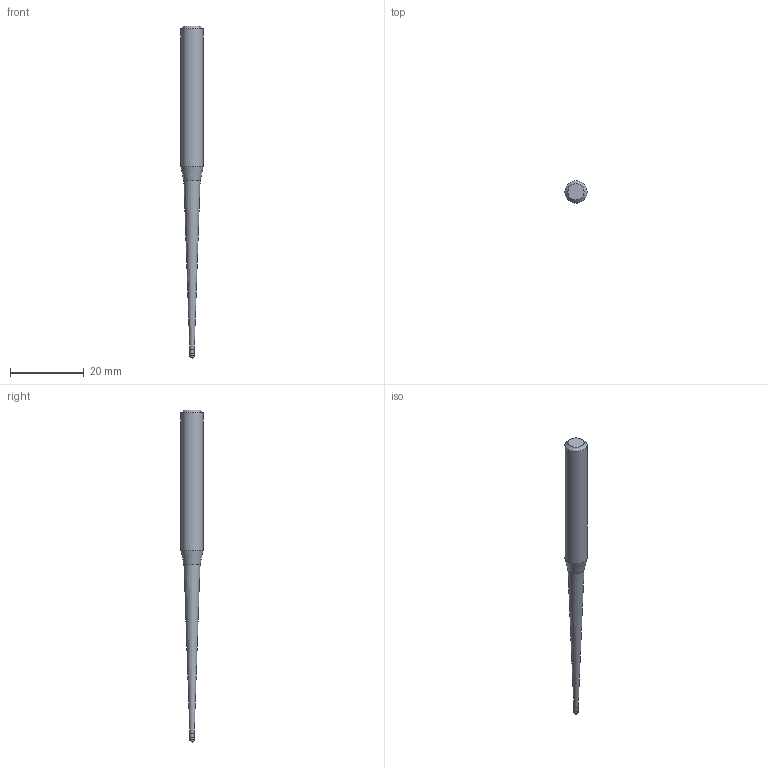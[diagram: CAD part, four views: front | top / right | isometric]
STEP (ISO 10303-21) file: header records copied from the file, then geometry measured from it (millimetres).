
FILE_DESCRIPTION((''),'2;1');
FILE_NAME('C:\Users\nsx150\AppData\Local\Temp\Mastercam 2021\SNAKH10GOD\TEMP.step','2021-10-21T13:32:43',(''),(''),'STEP Write','Mastercam 2021 ... CNC Software, Inc.','');
FILE_SCHEMA(('AUTOMOTIVE_DESIGN'));
Length unit declared in the file: millimetre
Products named in the file (1): None
Bounding box: 6 x 6 x 90 mm (x, y, z)
Volume: 1465.8 mm3; surface area: 1212.1 mm2
Topology: 2 solids, 2 shells, 10 faces, 16 edges, 9 vertices
Faces by surface type: plane 3, cylinder 3, cone 3, sphere 1
Full cylindrical faces by diameter (mm): 1.185 x1, 1.2 x1, 6 x1
Entity records: 232 total; most frequent: DIRECTION 40, CARTESIAN_POINT 28, AXIS2_PLACEMENT_3D 20, ORIENTED_EDGE 16, EDGE_LOOP 16, STYLED_ITEM 13, ADVANCED_FACE 10, FACE_BOUND 9
